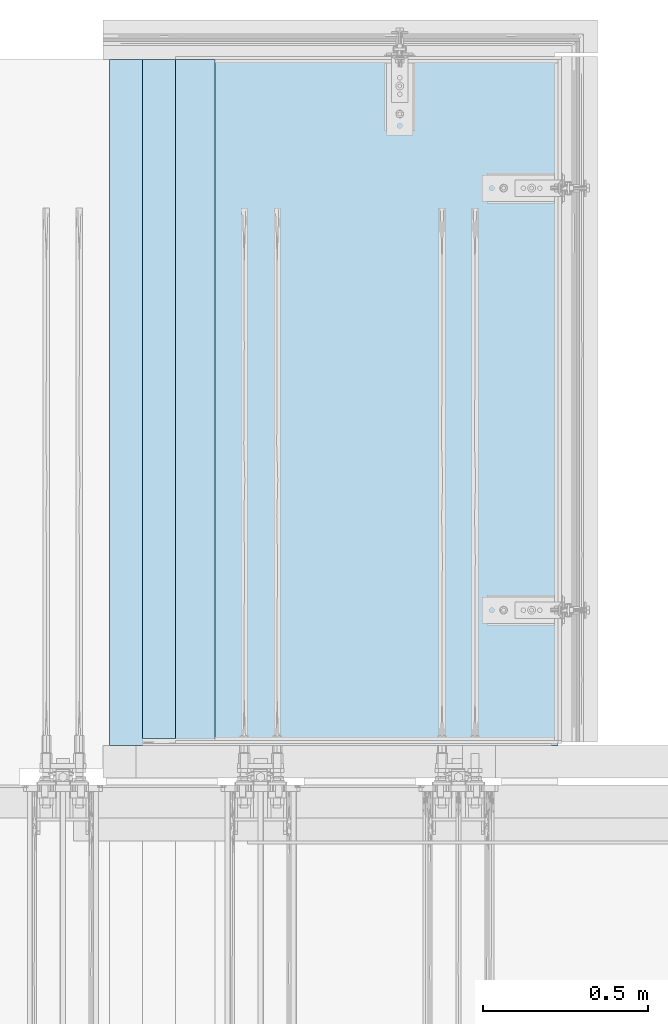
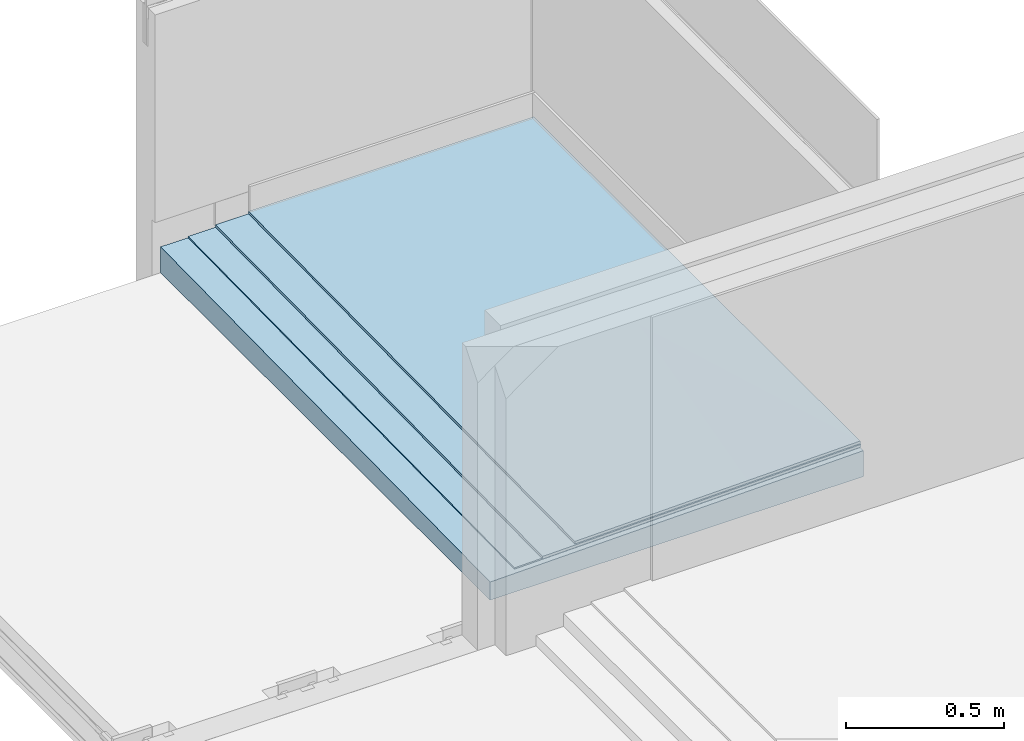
# One storey, part 8 of 17: 4 slabs.
"""IFC2X3 building model written with IfcOpenShell, lengths in metres."""

from ifc_helpers import new_model, entity, si_unit, converted_unit, derived_unit, direction, origin, place, context, subcontext, project, spatial, faceted_brep, material, layer, layer_set, type_object, element, save


model = new_model("IFC2X3")

# Units and contexts
model_context = context("Model", 3, precision=1e-05, world=origin(), true_north=direction((6.123031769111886e-17, 1.0)))
plan_context = context("Plan", 3, precision=1e-05, world=origin(), true_north=direction((6.123031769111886e-17, 1.0)))
body_context = subcontext(model_context, "Body", "Model", "MODEL_VIEW")
ifc_project = project(units=[si_unit("LENGTHUNIT", "METRE"), si_unit("AREAUNIT", "SQUARE_METRE"), converted_unit("PLANEANGLEUNIT", "DEGREE", entity("IfcPlaneAngleMeasure", 0.017453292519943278), si_unit("PLANEANGLEUNIT", "RADIAN"), dimensions=[0, 0, 0, 0, 0, 0, 0]), si_unit("VOLUMEUNIT", "CUBIC_METRE"), derived_unit("THERMALTRANSMITTANCEUNIT", [(si_unit("MASSUNIT", "GRAM", prefix="KILO"), 1), (si_unit("THERMODYNAMICTEMPERATUREUNIT", "KELVIN"), -1), (si_unit("TIMEUNIT", "SECOND"), -3)]), derived_unit("USERDEFINED", [(si_unit("MASSUNIT", "GRAM", prefix="KILO"), 1), (si_unit("THERMODYNAMICTEMPERATUREUNIT", "KELVIN"), -1), (si_unit("TIMEUNIT", "SECOND"), -2)]), derived_unit("THERMALRESISTANCEUNIT", [(si_unit("MASSUNIT", "GRAM", prefix="KILO"), -1), (si_unit("TIMEUNIT", "SECOND"), 3), (si_unit("THERMODYNAMICTEMPERATUREUNIT", "KELVIN"), 1)]), si_unit("PRESSUREUNIT", "PASCAL"), derived_unit("MASSDENSITYUNIT", [(si_unit("MASSUNIT", "GRAM", prefix="KILO"), 1), (si_unit("LENGTHUNIT", "METRE"), -3)]), derived_unit("VAPORPERMEABILITYUNIT", [(si_unit("LENGTHUNIT", "METRE"), -1), (si_unit("TIMEUNIT", "SECOND"), 1)]), derived_unit("USERDEFINED", [(si_unit("MASSUNIT", "GRAM", prefix="KILO"), 1), (si_unit("TIMEUNIT", "SECOND"), -3), (si_unit("LENGTHUNIT", "METRE"), 3), (si_unit("ELECTRICCURRENTUNIT", "AMPERE"), -2)])], contexts=[model_context, plan_context])

# Site, building, storey
site_placement = place(None, origin())
site = spatial("IfcSite", under=ifc_project, at=site_placement, Name="Default", CompositionType="ELEMENT")
building_placement = place(site_placement, origin())
building = spatial("IfcBuilding", under=site, at=building_placement, CompositionType="ELEMENT")
storey_placement = place(building_placement, origin())
storey = spatial("IfcBuildingStorey", under=building, at=storey_placement, Name="L0", CompositionType="ELEMENT", Elevation=0.0)

# Slabs
ifc_material_1 = material(Name="Hormigón, ligero")
slab_type_1 = type_object("IfcSlabType", Name="Suelo:DPG_Recrecido", PredefinedType="FLOOR")
slab_1_placement = place(storey_placement, origin())
element("IfcSlab", 1, at=slab_1_placement, inside=storey, type_object=slab_type_1, material=ifc_material_1, Name="Suelo:DPG_Recrecido", ObjectType="Suelo:DPG_Recrecido", PredefinedType="FLOOR", context=body_context, shape_type="Brep", body=[
    faceted_brep([(6.527720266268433, 16.994530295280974, 0.0), (7.8877202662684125, 16.994530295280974, 0.0), (7.8877202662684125, 14.914530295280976, 0.0), (6.527720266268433, 14.914530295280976, 0.0), (7.8877202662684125, 16.994530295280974, 0.1), (7.8877202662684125, 15.755497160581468, 0.1), (7.8877202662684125, 14.914530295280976, 0.1), (7.2077202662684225, 14.914530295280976, 0.0849), (6.833199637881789, 14.914530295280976, 0.07658343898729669), (6.527720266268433, 14.914530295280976, 0.0698), (6.527720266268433, 16.15356351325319, 0.08778980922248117), (6.527720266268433, 16.994530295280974, 0.1), (7.138679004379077, 16.994530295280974, 0.1), (7.582240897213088, 16.994530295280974, 0.09999999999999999), (7.360459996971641, 16.001637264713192, 0.09441102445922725), (6.951272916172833, 15.993115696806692, 0.0899884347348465)], [[[0, 1, 2, 3]], [[2, 1, 4, 5, 6]], [[3, 2, 6, 7, 8, 9]], [[0, 3, 9, 10, 11]], [[1, 0, 11, 12, 13, 4]], [[12, 14, 13]], [[15, 14, 12]], [[10, 9, 8]], [[5, 13, 14]], [[6, 5, 14]], [[7, 14, 15]], [[5, 4, 13]], [[10, 15, 11]], [[14, 7, 6]], [[15, 8, 7]], [[11, 15, 12]], [[10, 8, 15]]]),
])
ifc_material_2 = material(Name="Hormigón - Hormigón moldeado in situ")
ifc_layer_1 = layer(ifc_material_2, 0.01)
ifc_layer_set_1 = layer_set([ifc_layer_1], Name="Suelo:DPG_Pegamento cemento")
slab_type_2 = type_object("IfcSlabType", Name="Suelo:DPG_Pegamento cemento", PredefinedType="FLOOR", material=ifc_layer_set_1)
slab_2_placement = place(storey_placement, origin())
element("IfcSlab", 2, at=slab_2_placement, inside=storey, type_object=slab_type_2, material=ifc_material_2, Name="Suelo:DPG_Pegamento cemento", ObjectType="Suelo:DPG_Pegamento cemento", PredefinedType="FLOOR", context=body_context, shape_type="Brep", body=[
    faceted_brep([(7.8877202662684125, 16.994530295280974, 0.11500019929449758), (7.887720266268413, 16.22066009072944, 0.11500019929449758), (7.8877202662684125, 14.92953029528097, 0.11500019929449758), (7.8877202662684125, 14.92953029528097, 0.10500019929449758), (7.8877202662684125, 16.220660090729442, 0.10500019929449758), (7.8877202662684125, 16.994530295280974, 0.10500019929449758), (6.727720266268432, 14.92953029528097, 0.0844000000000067), (6.727720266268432, 14.92953029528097, 0.07939999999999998), (6.969229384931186, 14.929530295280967, 0.08472989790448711), (7.307720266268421, 14.92953029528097, 0.09220009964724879), (7.307720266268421, 14.92953029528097, 0.10220009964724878), (6.969229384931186, 14.929530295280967, 0.0947298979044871), (6.727720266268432, 14.92953029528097, 0.08939999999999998), (6.727720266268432, 16.22066009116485, 0.10540638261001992), (6.727720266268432, 16.994530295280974, 0.11500019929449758), (6.727720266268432, 16.994530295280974, 0.10500019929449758), (6.727720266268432, 16.22066009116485, 0.09540638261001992), (7.21073849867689, 16.994530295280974, 0.11500019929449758), (7.54922938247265, 16.994530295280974, 0.11500019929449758), (7.54922938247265, 16.994530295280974, 0.10500019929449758), (7.21073849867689, 16.994530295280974, 0.10500019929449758), (7.052466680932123, 16.074159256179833, 0.10678446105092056), (7.379983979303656, 16.020259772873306, 0.10971351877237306), (7.379983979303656, 16.020259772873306, 0.09971351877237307), (7.052466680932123, 16.074159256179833, 0.09678446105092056)], [[[0, 1, 2, 3, 4, 5]], [[6, 7, 8, 9, 3, 2, 10, 11, 12]], [[6, 12, 13, 14, 15, 16, 7]], [[14, 17, 18, 0, 5, 19, 20, 15]], [[1, 0, 18]], [[17, 21, 22]], [[14, 13, 21]], [[22, 18, 17]], [[22, 2, 1]], [[10, 22, 21]], [[1, 18, 22]], [[13, 12, 11]], [[22, 10, 2]], [[17, 14, 21]], [[13, 11, 21]], [[10, 21, 11]], [[19, 5, 4]], [[23, 24, 20]], [[24, 16, 15]], [[20, 19, 23]], [[4, 3, 23]], [[24, 23, 9]], [[23, 19, 4]], [[8, 7, 16]], [[3, 9, 23]], [[24, 15, 20]], [[24, 8, 16]], [[8, 24, 9]]]),
])
ifc_material_3 = material(Name="Azulejo, porcelana, 6 pulg.")
ifc_layer_2 = layer(ifc_material_3, 0.01)
ifc_layer_set_2 = layer_set([ifc_layer_2], Name="Suelo:DPG_Ceramica")
slab_type_3 = type_object("IfcSlabType", Name="Suelo:DPG_Ceramica", PredefinedType="FLOOR", material=ifc_layer_set_2)
slab_3_placement = place(storey_placement, origin())
element("IfcSlab", 3, at=slab_3_placement, inside=storey, type_object=slab_type_3, material=ifc_material_3, Name="Suelo:DPG_Ceramica", ObjectType="Suelo:DPG_Ceramica", PredefinedType="FLOOR", context=body_context, shape_type="Brep", body=[
    faceted_brep([(7.8877202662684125, 16.994530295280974, 0.1250001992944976), (7.887720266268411, 15.66639387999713, 0.1250001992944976), (7.8877202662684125, 14.934530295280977, 0.1250001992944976), (7.8877202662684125, 14.934530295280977, 0.1150001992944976), (7.887720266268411, 15.66639387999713, 0.1150001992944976), (7.8877202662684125, 16.994530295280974, 0.1150001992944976), (6.8477202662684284, 14.934530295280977, 0.10209999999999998), (6.8477202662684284, 14.934530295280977, 0.09209999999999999), (7.162451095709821, 14.934530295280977, 0.09903019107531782), (7.477181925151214, 14.934530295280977, 0.10596038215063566), (7.477181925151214, 14.934530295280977, 0.11596038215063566), (7.162451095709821, 14.934530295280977, 0.1090301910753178), (6.8477202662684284, 16.994530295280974, 0.1250001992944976), (7.367720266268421, 16.994530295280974, 0.1250001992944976), (7.682451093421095, 16.994530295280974, 0.1250001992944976), (7.682451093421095, 16.994530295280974, 0.1150001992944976), (7.367720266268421, 16.994530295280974, 0.1150001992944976), (6.8477202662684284, 16.994530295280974, 0.1150001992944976), (6.8477202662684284, 15.666393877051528, 0.11023583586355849), (7.60585542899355, 15.84664780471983, 0.12154178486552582), (7.3198164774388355, 15.89520344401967, 0.11832690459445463), (6.8477202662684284, 15.66639387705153, 0.1002358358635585), (7.3198164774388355, 15.89520344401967, 0.10832690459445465), (7.60585542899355, 15.84664780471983, 0.11154178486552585)], [[[0, 1, 2, 3, 4, 5]], [[6, 7, 8, 9, 3, 2, 10, 11]], [[12, 13, 14, 0, 5, 15, 16, 17]], [[18, 6, 11]], [[10, 19, 20]], [[2, 1, 19]], [[20, 11, 10]], [[20, 12, 18]], [[13, 20, 19]], [[18, 11, 20]], [[1, 0, 14]], [[20, 13, 12]], [[10, 2, 19]], [[1, 14, 19]], [[13, 19, 14]], [[8, 7, 21]], [[22, 23, 9]], [[23, 4, 3]], [[9, 8, 22]], [[21, 17, 22]], [[23, 22, 16]], [[22, 8, 21]], [[15, 5, 4]], [[17, 16, 22]], [[23, 3, 9]], [[23, 15, 4]], [[15, 23, 16]], [[6, 18, 12, 17, 21, 7]]]),
])
ifc_material_4 = material(Name="Caucho, butilo")
slab_type_4 = type_object("IfcSlabType", Name="Suelo:DPG_Lamina", PredefinedType="FLOOR")
slab_4_placement = place(storey_placement, origin())
element("IfcSlab", 4, at=slab_4_placement, inside=storey, type_object=slab_type_4, material=ifc_material_4, Name="Suelo:DPG_Lamina", ObjectType="Suelo:DPG_Lamina", PredefinedType="FLOOR", context=body_context, shape_type="Brep", body=[
    faceted_brep([(7.8877202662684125, 14.934530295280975, 0.10500019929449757), (7.8877202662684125, 14.934530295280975, 0.10000019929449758), (7.8877202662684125, 16.188971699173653, 0.10000019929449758), (7.8877202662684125, 16.994530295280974, 0.10000019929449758), (7.8877202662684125, 16.994530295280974, 0.10500019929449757), (7.8877202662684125, 16.188971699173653, 0.10500019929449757), (6.627720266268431, 14.934530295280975, 0.07726923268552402), (6.627720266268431, 14.934530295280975, 0.07226923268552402), (6.901453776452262, 14.934530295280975, 0.07829375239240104), (7.257720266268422, 14.934530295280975, 0.0861347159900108), (7.257720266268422, 14.934530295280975, 0.09113471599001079), (6.901453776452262, 14.934530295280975, 0.08329375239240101), (6.627720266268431, 16.188971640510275, 0.09415606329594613), (6.627720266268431, 16.994530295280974, 0.10500019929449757), (6.627720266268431, 16.994530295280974, 0.10000019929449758), (6.627720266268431, 16.188971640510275, 0.08915606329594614), (7.175187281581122, 16.994530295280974, 0.10500019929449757), (7.531453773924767, 16.994530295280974, 0.10500019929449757), (7.531453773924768, 16.994530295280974, 0.10000019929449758), (7.175187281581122, 16.994530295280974, 0.10000019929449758), (6.989724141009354, 16.072217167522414, 0.09615148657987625), (7.353320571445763, 16.01201971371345, 0.09939061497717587), (7.353320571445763, 16.01201971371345, 0.09439061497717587), (6.989724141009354, 16.072217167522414, 0.09115148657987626)], [[[0, 1, 2, 3, 4, 5]], [[6, 7, 8, 9, 1, 0, 10, 11]], [[6, 12, 13, 14, 15, 7]], [[13, 16, 17, 4, 3, 18, 19, 14]], [[5, 4, 17]], [[16, 20, 21]], [[12, 6, 11]], [[21, 17, 16]], [[21, 0, 5]], [[10, 21, 20]], [[5, 17, 21]], [[12, 20, 13]], [[21, 10, 0]], [[16, 13, 20]], [[12, 11, 20]], [[10, 20, 11]], [[18, 3, 2]], [[22, 23, 19]], [[8, 7, 15]], [[19, 18, 22]], [[2, 1, 22]], [[23, 22, 9]], [[22, 18, 2]], [[14, 23, 15]], [[1, 9, 22]], [[23, 14, 19]], [[23, 8, 15]], [[8, 23, 9]]]),
])

save(model, "model.ifc")
